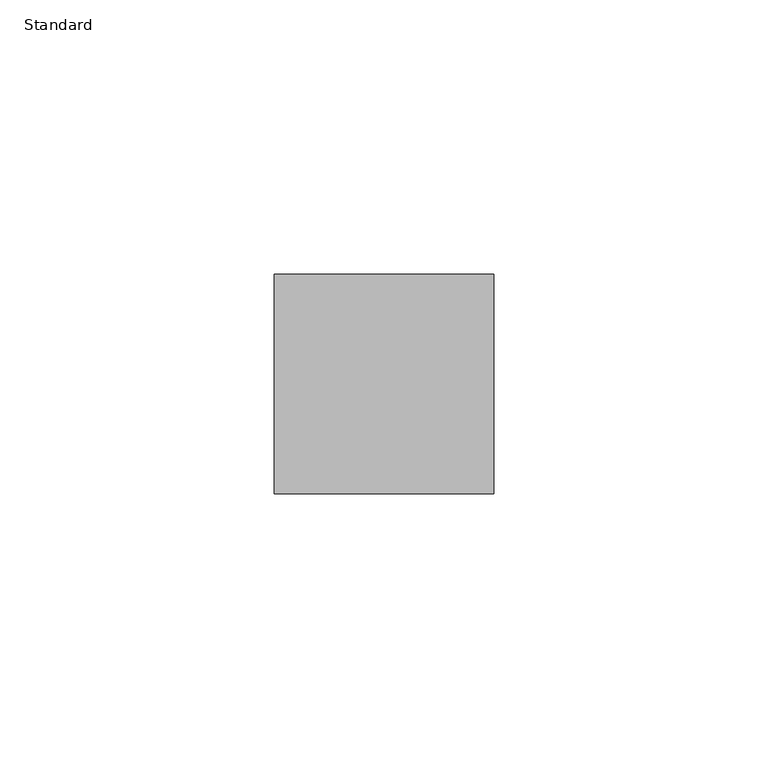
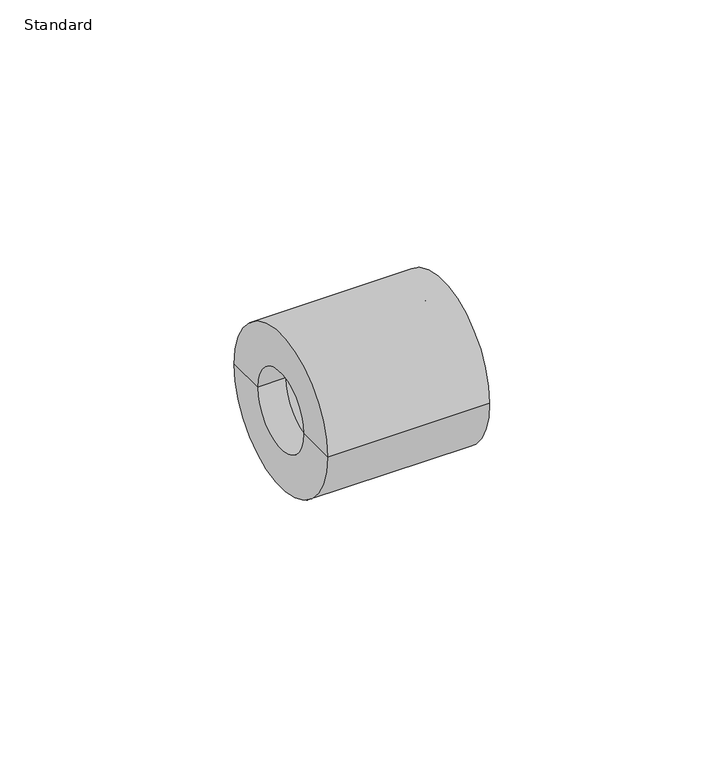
"""IFC4 building model written with IfcOpenShell, lengths in millimetres: pipe fitting geometry, Durapipe_PipeFitting_PVC_ReducingBush : Standard."""

from ifc_helpers import new_model, si_unit, frame, origin, place, context, project, spatial, polyline, circle_curve, source, transform, mapped, element, save
from ifc_brep_helpers import plane_surface, cylinder_surface, revolved_surface, advanced_brep


def standard_3e64da41(model_context):
    return source(origin(), model_context, "Body", "AdvancedBrep", [
        advanced_brep(
        [(-7.0, -10.0, 0.0), (-7.0, 10.0, 0.0), (-7.0, 20.0, 0.0), (-7.0, -20.0, 0.0), (0.0, -10.0, 0.0), (0.0, 10.0, 0.0), (0.0, -12.5, 0.0), (0.0, 12.5, 0.0), (33.0, -12.5, 0.0), (33.0, 12.5, 0.0), (33.0, -20.0, 0.0), (33.0, 20.0, 0.0)],
        [
            (0, 1, circle_curve(frame((-7.0, 0.0, 0.0), z_axis=(1.0, 0.0, 0.0), x_axis=(0.0, 1.0, 0.0)), 10.0)),
            (1, 2),
            (2, 3, circle_curve(frame((-7.0, 0.0, 0.0), z_axis=(-1.0, 0.0, 0.0), x_axis=(0.0, 1.0, 0.0)), 20.0)),
            (3, 0),
            (1, 0, circle_curve(frame((-7.0, 0.0, 0.0), z_axis=(1.0, 0.0, 0.0), x_axis=(0.0, 1.0, 0.0)), 10.0)),
            (3, 2, circle_curve(frame((-7.0, 0.0, 0.0), z_axis=(-1.0, 0.0, 0.0), x_axis=(0.0, 1.0, 0.0)), 20.0)),
            (4, 5, circle_curve(frame((0.0, 0.0, 0.0), z_axis=(1.0, 0.0, 0.0), x_axis=(0.0, 1.0, 0.0)), 10.0)),
            (5, 1),
            (0, 4),
            (5, 4, circle_curve(frame((0.0, 0.0, 0.0), z_axis=(1.0, 0.0, 0.0), x_axis=(0.0, 1.0, 0.0)), 10.0)),
            (6, 7, circle_curve(frame((0.0, 0.0, 0.0), z_axis=(1.0, 0.0, 0.0), x_axis=(0.0, 1.0, 0.0)), 12.5)),
            (7, 5),
            (4, 6),
            (7, 6, circle_curve(frame((0.0, 0.0, 0.0), z_axis=(1.0, 0.0, 0.0), x_axis=(0.0, 1.0, 0.0)), 12.5)),
            (8, 9, circle_curve(frame((33.0, 0.0, 0.0), z_axis=(1.0, 0.0, 0.0), x_axis=(0.0, 1.0, 0.0)), 12.5)),
            (9, 7),
            (6, 8),
            (9, 8, circle_curve(frame((33.0, 0.0, 0.0), z_axis=(1.0, 0.0, 0.0), x_axis=(0.0, 1.0, 0.0)), 12.5)),
            (10, 11, circle_curve(frame((33.0, 0.0, 0.0), z_axis=(1.0, 0.0, 0.0), x_axis=(0.0, 1.0, 0.0)), 20.0)),
            (11, 9),
            (8, 10),
            (11, 10, circle_curve(frame((33.0, 0.0, 0.0), z_axis=(1.0, 0.0, 0.0), x_axis=(0.0, 1.0, 0.0)), 20.0)),
            (2, 11),
            (10, 3),
        ],
        [
            plane_surface(frame((-7.0, 0.0, 0.0), z_axis=(-1.0, 0.0, 0.0), x_axis=(0.0, 1.0, 0.0))),
            revolved_surface(polyline([(-7.0, 10.0, 0.0), (0.0, 10.0, 0.0)]), (2019.0, 0.0, 0.0), (-1.0, 0.0, 0.0)),
            plane_surface(frame((0.0, 0.0, 0.0), z_axis=(1.0, 0.0, 0.0), x_axis=(0.0, 1.0, 0.0))),
            revolved_surface(polyline([(0.0, 12.5, 0.0), (33.0, 12.5, 0.0)]), (2019.0, 0.0, 0.0), (-1.0, 0.0, 0.0)),
            plane_surface(frame((33.0, 0.0, 0.0), z_axis=(1.0, 0.0, 0.0), x_axis=(0.0, 1.0, 0.0))),
            cylinder_surface(frame((2019.0, 0.0, 0.0), z_axis=(-1.0, 0.0, 0.0), x_axis=(0.0, 1.0, 0.0)), 20.0),
        ],
        [
            (0, [[1, 2, 3, 4]]),
            (0, [[5, -4, 6, -2]]),
            (1, [[7, 8, -1, 9]]),
            (1, [[10, -9, -5, -8]]),
            (2, [[11, 12, -7, 13]]),
            (2, [[14, -13, -10, -12]]),
            (3, [[15, 16, -11, 17]]),
            (3, [[18, -17, -14, -16]]),
            (4, [[19, 20, -15, 21]]),
            (4, [[22, -21, -18, -20]]),
            (5, [[-3, 23, -19, 24]]),
            (5, [[-6, -24, -22, -23]]),
        ],
    ),
    ])


if __name__ == "__main__":
    model = new_model("IFC4")
    model_context = context("Model", 3, world=origin())
    ifc_project = project(units=[si_unit("LENGTHUNIT", "METRE", prefix="MILLI")], contexts=[model_context])
    site = spatial("IfcSite", under=ifc_project)
    building = spatial("IfcBuilding", under=site)
    placement = place(None, origin())
    standard_shape = standard_3e64da41(model_context)
    element("IfcPipeFitting", 1, ObjectType="Durapipe_PipeFitting_PVC_ReducingBush : Standard", at=placement, inside=building, context=model_context, shape_type="MappedRepresentation", body=[
        mapped(standard_shape, transform((0.0, 0.0, 0.0), x_axis=(1.0, 0.0, 0.0), y_axis=(0.0, 1.0, 0.0), z_axis=(0.0, 0.0, 1.0))),
    ])
    save(model, "model.ifc")
